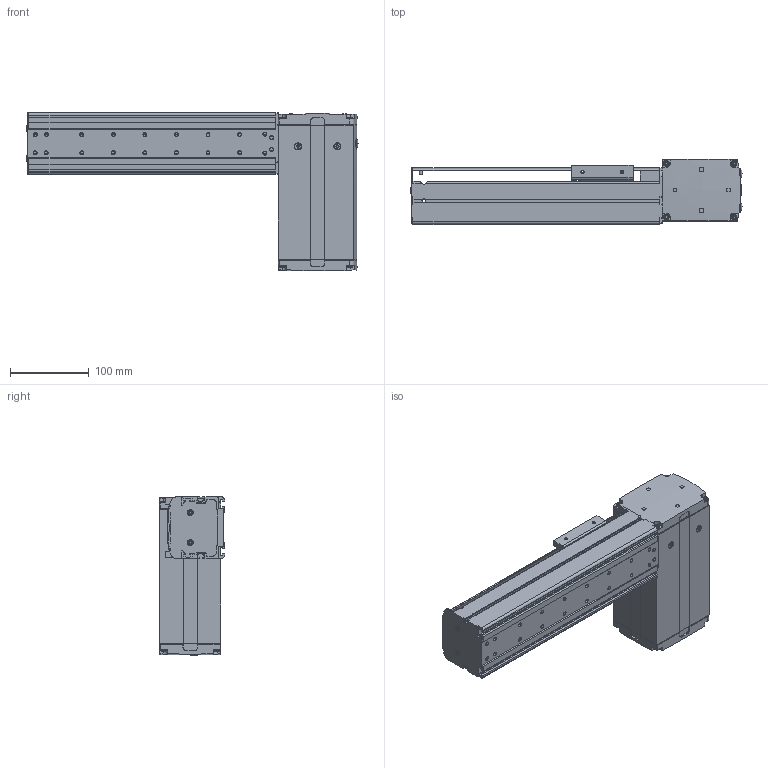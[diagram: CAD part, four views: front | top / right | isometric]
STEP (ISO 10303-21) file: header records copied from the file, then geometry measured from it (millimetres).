
FILE_DESCRIPTION((''),'2;1');
FILE_NAME('BE10_-BL-S_N-15_IGS_PRT','2017-06-18T',(' '),(''),'PRO/ENGINEER BY PARAMETRIC TECHNOLOGY CORPORATION, 2015030','PRO/ENGINEER BY PARAMETRIC TECHNOLOGY CORPORATION, 2015030','');
FILE_SCHEMA(('CONFIG_CONTROL_DESIGN'));
Length unit declared in the file: millimetre
Products named in the file (1): BE10_-BL-S_N-15_IGS_PRT
Bounding box: 420.8 x 82.5 x 200.5 mm (x, y, z)
Volume: 706476.3 mm3; surface area: 502487.3 mm2
Topology: 3 solids, 90 shells, 1878 faces, 5121 edges, 3343 vertices
Faces by surface type: plane 957, cylinder 758, cone 103, sphere 30, torus 27, bspline 3
Entity records: 60737 total; most frequent: CARTESIAN_POINT 12326, DIRECTION 10238, ORIENTED_EDGE 9822, EDGE_CURVE 5067, AXIS2_PLACEMENT_3D 3579, VERTEX_POINT 3343, VECTOR 3080, LINE 3080
